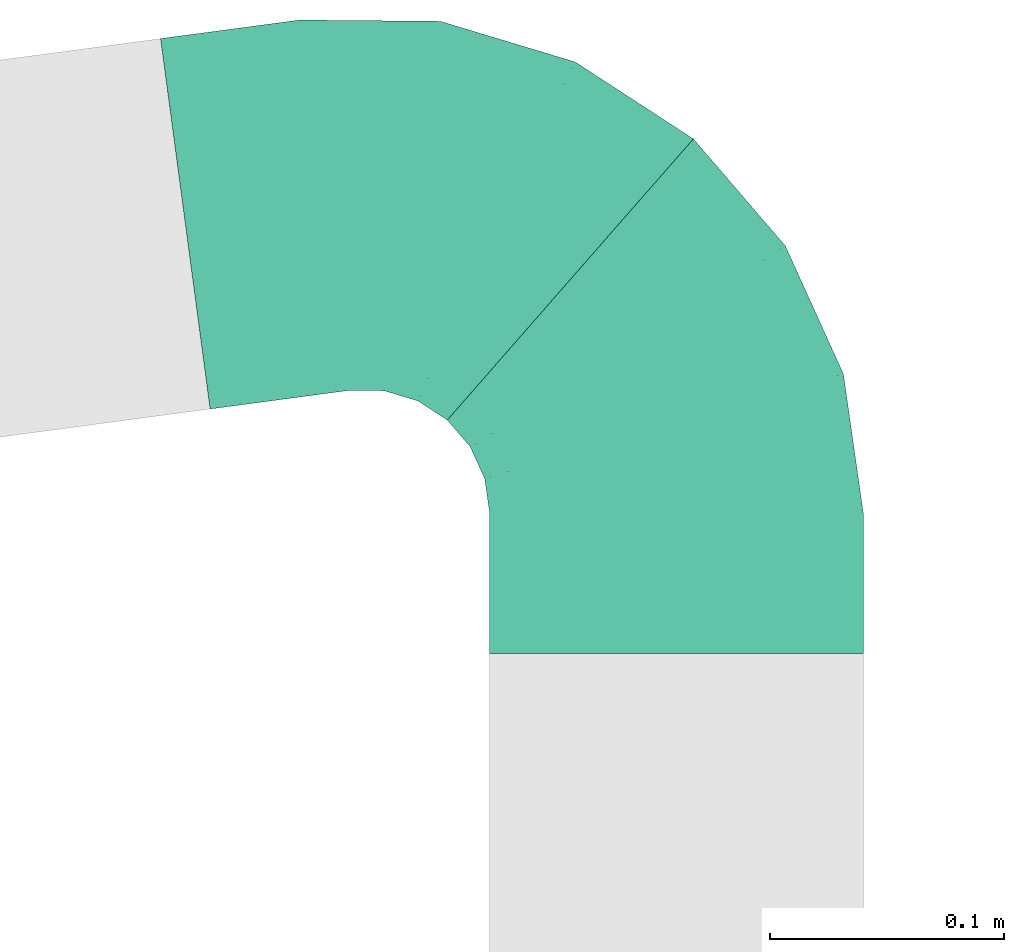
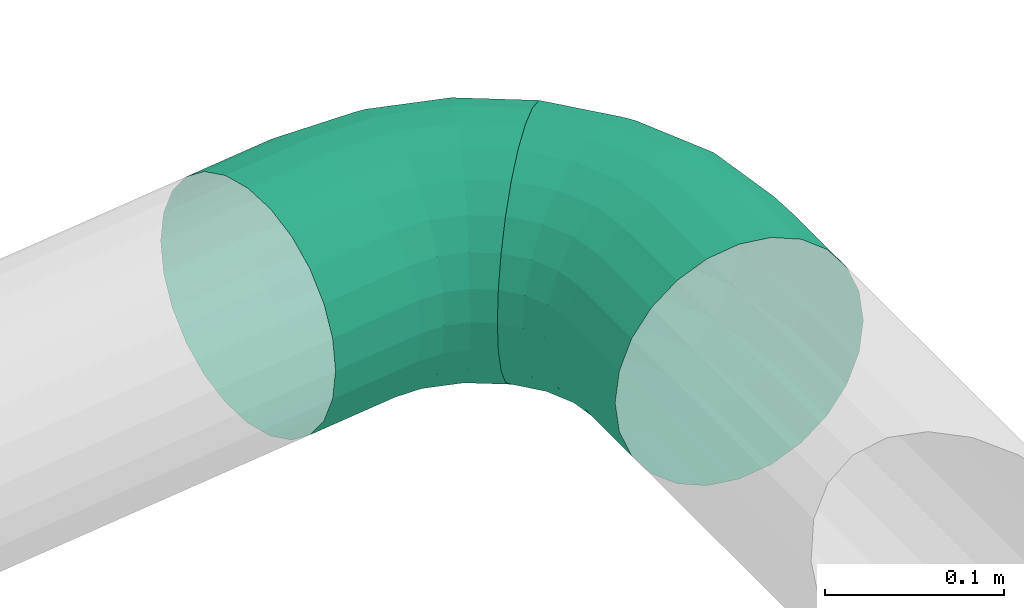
# One storey, part 322 of 374: 2 flow fittings.
"""IFC2X3 building model written with IfcOpenShell, lengths in metres."""

from ifc_helpers import new_model, si_unit, direction, origin, place, context, subcontext, project, spatial, open_shell, surface_model, source, transform, mapped, element, save


model = new_model("IFC2X3")

# Units and contexts
model_context = context("Model", 3, precision=1e-05, world=origin(), true_north=direction((-0.4480736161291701, 0.8939966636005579)))
body_context = subcontext(model_context, "Body", "Model", "MODEL_VIEW")
ifc_project = project(units=[si_unit("LENGTHUNIT", "METRE"), si_unit("AREAUNIT", "SQUARE_METRE"), si_unit("VOLUMEUNIT", "CUBIC_METRE"), si_unit("PLANEANGLEUNIT", "RADIAN"), si_unit("THERMODYNAMICTEMPERATUREUNIT", "KELVIN"), si_unit("MASSUNIT", "GRAM", prefix="KILO"), si_unit("TIMEUNIT", "SECOND")], contexts=[model_context])

# Site, building, storey
site_placement = place(None, origin())
site = spatial("IfcSite", under=ifc_project, at=site_placement, Name="Site 1", CompositionType="ELEMENT")
building_placement = place(site_placement, origin())
building = spatial("IfcBuilding", under=site, at=building_placement, Name="Undefined", CompositionType="ELEMENT")
storey_placement = place(building_placement, origin())
storey = spatial("IfcBuildingStorey", under=building, at=storey_placement, Name="Rez de chauss\x8ee", CompositionType="ELEMENT", Elevation=0.0)

# Flow fittings
shared_shape_1 = source(origin(), body_context, "Body", "SurfaceModel", [
    surface_model("IfcFaceBasedSurfaceModel", [(0.0, 0.020884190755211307, 0.0), (0.0, 0.0, 0.0), (0.06000000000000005, 8.8817842e-16, 0.0), (0.060000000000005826, 0.02088419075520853, 0.0), (0.0, -0.020172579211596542, -0.005405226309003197), (0.060000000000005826, -0.020172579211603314, -0.005405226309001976), (0.0, -0.03825881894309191, -0.015847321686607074), (0.060000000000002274, -0.03825881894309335, -0.015847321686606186), (0.0, -0.05302617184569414, -0.0306146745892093), (0.060000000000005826, -0.05302617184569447, -0.030614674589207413), (0.0, -0.06346826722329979, -0.04870091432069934), (0.060000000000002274, -0.06346826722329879, -0.04870091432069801), (0.0, -0.06887349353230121, -0.06887349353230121), (0.060000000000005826, -0.06887349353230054, -0.06887349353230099), (0.0, -0.06887349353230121, -0.08975768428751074), (0.060000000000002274, -0.06887349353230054, -0.08975768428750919), (0.0, -0.06346826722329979, -0.10993026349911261), (0.060000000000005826, -0.06346826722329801, -0.10993026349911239), (0.0, -0.05302617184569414, -0.12801650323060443), (0.060000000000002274, -0.05302617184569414, -0.12801650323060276), (0.0, -0.038258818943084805, -0.14278385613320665), (0.060000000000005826, -0.03825881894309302, -0.14278385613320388), (0.0, -0.020172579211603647, -0.15322595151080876), (0.060000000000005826, -0.020172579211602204, -0.15322595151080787), (0.0, 7.105427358e-15, -0.15863117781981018), (0.060000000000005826, 8.8817842e-16, -0.15863117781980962), (0.0, 0.020884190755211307, -0.15863117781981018), (0.060000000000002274, 0.020884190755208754, -0.1586311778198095), (0.0, 0.04105676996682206, -0.15322595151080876), (0.060000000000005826, 0.041056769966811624, -0.15322595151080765), (0.0, 0.05914300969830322, -0.1427838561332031), (0.060000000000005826, 0.05914300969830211, -0.14278385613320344), (0.0, 0.07391036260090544, -0.12801650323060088), (0.060000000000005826, 0.073910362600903, -0.12801650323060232), (0.0, 0.0843524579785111, -0.10993026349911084), (0.060000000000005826, 0.0843524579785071, -0.10993026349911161), (0.0, 0.08975768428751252, -0.08975768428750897), (0.060000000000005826, 0.08975768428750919, -0.08975768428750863), (0.0, 0.08975768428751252, -0.06887349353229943), (0.060000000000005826, 0.08975768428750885, -0.06887349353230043), (0.0, 0.0843524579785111, -0.048700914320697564), (0.060000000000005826, 0.08435245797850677, -0.04870091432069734), (0.0, 0.07391036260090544, -0.030614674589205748), (0.060000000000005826, 0.07391036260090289, -0.03061467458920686), (0.0, 0.05914300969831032, -0.015847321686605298), (0.060000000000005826, 0.05914300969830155, -0.015847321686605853), (0.0, 0.04105676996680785, -0.005405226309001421), (0.060000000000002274, 0.04105676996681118, -0.005405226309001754), (0.11895550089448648, -0.06051862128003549, -0.09085762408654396), (0.11971917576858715, -0.06041039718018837, -0.06998768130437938), (0.17318934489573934, -0.03612313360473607, -0.0940693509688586), (0.17465553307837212, -0.03569890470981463, -0.07324101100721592), (0.21835802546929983, 0.002359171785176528, -0.09913564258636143), (0.22040930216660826, 0.0032818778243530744, -0.0783729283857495), (0.11671651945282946, -0.05543069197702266, -0.11098843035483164), (0.16889069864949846, -0.031961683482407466, -0.11407818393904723), (0.21234398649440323, 0.005059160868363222, -0.11895207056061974), (0.11315481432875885, -0.0454933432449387, -0.12900821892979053), (0.1620525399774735, -0.023498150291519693, -0.13190394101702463), (0.20277703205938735, 0.011197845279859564, -0.1364717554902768), (0.10851310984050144, -0.03138378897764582, -0.14368897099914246), (0.1531408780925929, -0.011309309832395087, -0.14633182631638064), (0.19030913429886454, 0.02035688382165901, -0.15050075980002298), (0.10310773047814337, -0.014063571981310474, -0.15403021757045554), (0.14276302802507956, 0.0037741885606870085, -0.156378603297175), (0.1757899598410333, 0.03191210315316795, -0.16008303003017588), (0.09730704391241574, 0.005286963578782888, -0.15932721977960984), (0.1316262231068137, 0.020724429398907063, -0.16135960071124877), (0.16020896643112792, 0.04507603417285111, -0.16456555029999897), (0.091506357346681, 0.025349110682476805, -0.15921899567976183), (0.12048941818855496, 0.03838628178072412, -0.16093537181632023), (0.14462797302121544, 0.05895157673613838, -0.16364284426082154), (0.08610097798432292, 0.04475566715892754, -0.15371292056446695), (0.11011156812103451, 0.0555561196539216, -0.15513482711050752), (0.1301087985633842, 0.0725931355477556, -0.15737779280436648), (0.08145927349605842, 0.062184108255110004, -0.14318422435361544), (0.10119990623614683, 0.07106384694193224, -0.1443532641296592), (0.11764090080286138, 0.08507106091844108, -0.14619734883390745), (0.07789756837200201, 0.07644671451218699, -0.12835042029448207), (0.09436174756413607, 0.08385263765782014, -0.12932542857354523), (0.10807394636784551, 0.09553500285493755, -0.13086344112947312), (0.07565858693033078, 0.0865715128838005, -0.11022240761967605), (0.09006310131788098, 0.09305095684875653, -0.11107544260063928), (0.1020599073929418, 0.10327186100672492, -0.11242105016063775), (0.07489491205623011, 0.09186851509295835, -0.09003558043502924), (0.0885969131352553, 0.09803195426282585, -0.09084701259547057), (0.10000863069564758, 0.10775438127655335, -0.09212699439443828), (0.07565858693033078, 0.09197673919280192, -0.06916563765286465), (0.09006310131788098, 0.09845618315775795, -0.07001867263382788), (0.1020599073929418, 0.10867708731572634, -0.07136428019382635), (0.07789756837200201, 0.08688880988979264, -0.04903483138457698), (0.09436174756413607, 0.09429473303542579, -0.05000983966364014), (0.10807394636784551, 0.1059770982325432, -0.051547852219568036), (0.08145927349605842, 0.07695146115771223, -0.03101504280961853), (0.10119990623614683, 0.08583119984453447, -0.0321840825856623), (0.11764090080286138, 0.0998384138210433, -0.03402816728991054), (0.08610097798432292, 0.0628419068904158, -0.016334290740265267), (0.11011156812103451, 0.07364235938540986, -0.01775619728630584), (0.1301087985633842, 0.09067937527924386, -0.019999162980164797), (0.091506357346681, 0.04552168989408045, -0.005993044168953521), (0.12048941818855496, 0.058558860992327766, -0.007709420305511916), (0.14462797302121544, 0.07912415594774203, -0.010416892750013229), (0.09730704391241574, 0.02617115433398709, -0.0006960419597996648), (0.1316262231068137, 0.041608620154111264, -0.0027284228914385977), (0.16020896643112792, 0.06596022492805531, -0.005934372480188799), (0.10310773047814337, 0.006109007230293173, -0.0008042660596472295), (0.14276302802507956, 0.023946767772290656, -0.0031526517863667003), (0.1757899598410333, 0.052084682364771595, -0.006857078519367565), (0.10851310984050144, -0.013297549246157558, -0.006310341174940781), (0.1531408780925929, 0.006776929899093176, -0.00895319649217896), (0.19030913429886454, 0.038443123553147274, -0.013122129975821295), (0.11315481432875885, -0.030725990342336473, -0.01683903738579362), (0.1620525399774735, -0.008730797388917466, -0.01973475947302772), (0.20277703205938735, 0.02596519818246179, -0.024302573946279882), (0.11671651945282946, -0.04498859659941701, -0.03167284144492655), (0.16889069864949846, -0.021519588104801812, -0.03476259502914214), (0.21234398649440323, 0.015501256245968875, -0.03963648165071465), (0.11895550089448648, -0.05511339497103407, -0.04980085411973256), (0.17318934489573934, -0.030717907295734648, -0.0530125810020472), (0.21835802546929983, 0.007764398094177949, -0.058078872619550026)], [open_shell([[[0, 1, 2, 3]], [[1, 4, 5, 2]], [[4, 6, 7, 5]], [[6, 8, 9, 7]], [[8, 10, 11, 9]], [[10, 12, 13, 11]], [[12, 14, 15, 13]], [[14, 16, 17, 15]], [[16, 18, 19, 17]], [[18, 20, 21, 19]], [[20, 22, 23, 21]], [[22, 24, 25, 23]], [[24, 26, 27, 25]], [[26, 28, 29, 27]], [[28, 30, 31, 29]], [[30, 32, 33, 31]], [[32, 34, 35, 33]], [[34, 36, 37, 35]], [[36, 38, 39, 37]], [[38, 40, 41, 39]], [[40, 42, 43, 41]], [[42, 44, 45, 43]], [[44, 46, 47, 45]], [[46, 0, 3, 47]], [[13, 15, 48, 49]], [[49, 48, 50, 51]], [[51, 50, 52, 53]], [[15, 17, 54, 48]], [[48, 54, 55, 50]], [[50, 55, 56, 52]], [[17, 19, 57, 54]], [[54, 57, 58, 55]], [[55, 58, 59, 56]], [[19, 21, 60, 57]], [[57, 60, 61, 58]], [[58, 61, 62, 59]], [[21, 23, 63, 60]], [[60, 63, 64, 61]], [[61, 64, 65, 62]], [[23, 25, 66, 63]], [[63, 66, 67, 64]], [[64, 67, 68, 65]], [[25, 27, 69, 66]], [[66, 69, 70, 67]], [[67, 70, 71, 68]], [[27, 29, 72, 69]], [[69, 72, 73, 70]], [[70, 73, 74, 71]], [[29, 31, 75, 72]], [[72, 75, 76, 73]], [[73, 76, 77, 74]], [[31, 33, 78, 75]], [[75, 78, 79, 76]], [[76, 79, 80, 77]], [[33, 35, 81, 78]], [[78, 81, 82, 79]], [[79, 82, 83, 80]], [[35, 37, 84, 81]], [[81, 84, 85, 82]], [[82, 85, 86, 83]], [[37, 39, 87, 84]], [[84, 87, 88, 85]], [[85, 88, 89, 86]], [[39, 41, 90, 87]], [[87, 90, 91, 88]], [[88, 91, 92, 89]], [[41, 43, 93, 90]], [[90, 93, 94, 91]], [[91, 94, 95, 92]], [[43, 45, 96, 93]], [[93, 96, 97, 94]], [[94, 97, 98, 95]], [[45, 47, 99, 96]], [[96, 99, 100, 97]], [[97, 100, 101, 98]], [[47, 3, 102, 99]], [[99, 102, 103, 100]], [[100, 103, 104, 101]], [[3, 2, 105, 102]], [[102, 105, 106, 103]], [[103, 106, 107, 104]], [[2, 5, 108, 105]], [[105, 108, 109, 106]], [[106, 109, 110, 107]], [[5, 7, 111, 108]], [[108, 111, 112, 109]], [[109, 112, 113, 110]], [[7, 9, 114, 111]], [[111, 114, 115, 112]], [[112, 115, 116, 113]], [[9, 11, 117, 114]], [[114, 117, 118, 115]], [[115, 118, 119, 116]], [[11, 13, 49, 117]], [[117, 49, 51, 118]], [[118, 51, 53, 119]]])]),
])
flow_fitting_1_placement = place(storey_placement, origin())
element("IfcFlowFitting", 1, at=flow_fitting_1_placement, inside=storey, Name="PE-HD coude 90° à grand rayon", ObjectType="PE-HD coude 90° à grand rayon", context=body_context, shape_type="MappedRepresentation", body=[
    mapped(shared_shape_1, transform((31.039457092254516, 32.412654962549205, -0.7163137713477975), x_axis=(0.0, 1.0, 0.0), y_axis=(-0.9914448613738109, 0.0, 0.1305261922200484), z_axis=(0.1305261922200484, 0.0, 0.9914448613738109))),
])
shared_shape_2 = source(origin(), body_context, "Body", "SurfaceModel", [
    surface_model("IfcFaceBasedSurfaceModel", [(0.06032615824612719, 8.8817842e-16, -7.105427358e-15), (0.059940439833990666, 0.02088062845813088, -7.105427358e-15), (0.0003857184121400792, 0.02088062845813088, -7.105427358e-15), (0.0, 0.0, 0.0), (-0.05678417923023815, 0.02303682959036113, -0.016544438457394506), (-0.05791044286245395, 0.002184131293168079, -0.01675874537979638), (-0.10699060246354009, 0.027176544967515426, -0.04830829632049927), (-0.108767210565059, 0.0063774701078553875, -0.04893405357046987), (0.0588095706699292, 0.041035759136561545, -0.005351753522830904), (0.0015165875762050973, 0.04103575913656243, -0.005351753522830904), (-0.05348214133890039, 0.04311007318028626, -0.02126787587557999), (-0.10178185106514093, 0.047092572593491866, -0.051825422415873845), (0.057010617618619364, 0.05909185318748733, -0.015690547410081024), (0.0033155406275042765, 0.05909185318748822, -0.01569054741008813), (-0.04822935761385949, 0.06103590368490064, -0.03060716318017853), (-0.09349592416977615, 0.06476830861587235, -0.059245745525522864), (0.05466617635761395, 0.07381841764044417, -0.030311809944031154), (0.005659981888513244, 0.07381841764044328, -0.030311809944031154), (-0.041383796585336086, 0.07559270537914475, -0.043925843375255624), (-0.08269749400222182, 0.0789991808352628, -0.07006358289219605), (0.05193601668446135, 0.08421186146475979, -0.04821912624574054), (0.008390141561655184, 0.08421186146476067, -0.048219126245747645), (-0.03341197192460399, 0.08578845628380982, -0.060316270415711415), (-0.07012245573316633, 0.08881537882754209, -0.083541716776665), (0.04900619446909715, 0.08956388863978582, -0.06819214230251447), (0.011319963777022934, 0.0895638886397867, -0.06819214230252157), (-0.024857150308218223, 0.0909283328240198, -0.07866146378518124), (-0.05662777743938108, 0.09354794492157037, -0.09876163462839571), (0.0460763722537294, 0.08950976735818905, -0.08886973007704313), (0.014249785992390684, 0.08950976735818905, -0.08886973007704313), (-0.016302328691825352, 0.09066206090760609, -0.0977112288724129), (-0.04313309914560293, 0.09287436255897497, -0.11468612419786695), (0.04334621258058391, 0.08405318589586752, -0.10884274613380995), (0.016979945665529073, 0.08405318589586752, -0.10884274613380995), (-0.00833050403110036, 0.08500778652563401, -0.11616735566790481), (-0.03055806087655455, 0.08684053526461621, -0.13022995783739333), (0.04100177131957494, 0.07356600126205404, -0.12675006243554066), (0.019324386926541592, 0.07356600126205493, -0.12675006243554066), (-0.001484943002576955, 0.07435083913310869, -0.1327720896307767), (-0.019759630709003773, 0.07585765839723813, -0.1443338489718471), (0.03920281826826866, 0.058762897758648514, -0.14137132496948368), (0.02112333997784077, 0.05876289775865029, -0.14137132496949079), (0.0037678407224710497, 0.059417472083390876, -0.14639384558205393), (-0.011473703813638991, 0.06067419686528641, -0.156036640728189), (0.03807194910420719, 0.04065268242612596, -0.151710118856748), (0.022254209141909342, 0.04065268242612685, -0.15171011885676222), (0.007069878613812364, 0.041225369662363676, -0.15610432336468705), (-0.0062649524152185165, 0.04232487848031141, -0.16454080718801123), (0.03768623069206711, 0.020469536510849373, -0.15706187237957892), (0.02263992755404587, 0.020469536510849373, -0.15706187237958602), (0.008196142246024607, 0.02101429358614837, -0.16124176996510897), (-0.0044883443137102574, 0.022060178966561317, -0.16926680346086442), (0.03807194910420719, -0.0004110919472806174, -0.15706187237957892), (0.022254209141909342, -0.0004110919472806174, -0.15706187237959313), (0.007069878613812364, 0.00016159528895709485, -0.16145607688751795), (-0.0062649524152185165, 0.0012611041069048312, -0.16989256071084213), (0.03920281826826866, -0.02056622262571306, -0.15171011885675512), (0.02112333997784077, -0.020566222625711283, -0.15171011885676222), (0.0037678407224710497, -0.019911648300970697, -0.15673263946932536), (-0.011473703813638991, -0.01865492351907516, -0.16637543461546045), (0.04100177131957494, -0.03862231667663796, -0.1413713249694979), (0.019324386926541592, -0.03862231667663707, -0.1413713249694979), (-0.001484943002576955, -0.0378374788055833, -0.14739335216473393), (-0.019759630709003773, -0.03633065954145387, -0.15895511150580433), (0.04334621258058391, -0.053348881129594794, -0.12675006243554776), (0.016979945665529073, -0.053348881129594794, -0.12675006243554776), (-0.00833050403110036, -0.052394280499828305, -0.13407467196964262), (-0.03055806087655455, -0.0505615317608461, -0.14813727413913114), (0.0460763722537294, -0.06374232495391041, -0.10884274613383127), (0.014249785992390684, -0.06374232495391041, -0.10884274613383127), (-0.016302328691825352, -0.06259003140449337, -0.11768424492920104), (-0.04313309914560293, -0.0603777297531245, -0.13465914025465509), (0.04900619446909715, -0.06909435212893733, -0.08886973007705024), (0.011319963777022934, -0.06909435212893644, -0.08886973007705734), (-0.024857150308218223, -0.06772990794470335, -0.099339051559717), (-0.05662777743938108, -0.06511029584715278, -0.11943922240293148), (0.05193601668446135, -0.06904023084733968, -0.06819214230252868), (0.008390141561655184, -0.06904023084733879, -0.06819214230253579), (-0.03341197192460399, -0.06746363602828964, -0.08028928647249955), (-0.07012245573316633, -0.06443671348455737, -0.10351473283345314), (0.05466617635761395, -0.06358364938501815, -0.04821912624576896), (0.005659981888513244, -0.06358364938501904, -0.04821912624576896), (-0.041383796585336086, -0.06180936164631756, -0.06183315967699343), (-0.08269749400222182, -0.05840288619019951, -0.08797089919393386), (0.057010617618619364, -0.053096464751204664, -0.03031180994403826), (0.0033155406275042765, -0.053096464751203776, -0.030311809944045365), (-0.04822935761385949, -0.051152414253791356, -0.04522842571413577), (-0.09349592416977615, -0.047420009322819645, -0.0738670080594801), (0.0588095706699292, -0.03829336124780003, -0.01569054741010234), (0.0015165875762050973, -0.03829336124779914, -0.01569054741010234), (-0.05348214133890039, -0.036219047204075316, -0.031606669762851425), (-0.10178185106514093, -0.03223654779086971, -0.06216421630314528), (0.059940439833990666, -0.02018314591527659, -0.00535175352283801), (0.0003857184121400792, -0.02018314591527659, -0.00535175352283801), (-0.05678417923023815, -0.01802694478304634, -0.02189619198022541), (-0.10699060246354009, -0.013887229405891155, -0.05366004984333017), (-0.15249700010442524, 0.03223022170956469, -0.08708494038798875), (-0.15427360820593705, 0.011431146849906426, -0.08771069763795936), (-0.14728824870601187, 0.05214624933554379, -0.09060206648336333), (-0.1390023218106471, 0.06982198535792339, -0.09802238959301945), (-0.1282038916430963, 0.08405285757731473, -0.10884022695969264), (-0.11562885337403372, 0.0938690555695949, -0.1223183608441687), (-0.10213417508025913, 0.0986016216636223, -0.1375382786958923), (-0.08863949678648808, 0.097928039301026, -0.15346276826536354), (-0.07606445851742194, 0.09189421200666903, -0.16900660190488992), (-0.06526602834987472, 0.08091133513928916, -0.18311049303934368), (-0.05698010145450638, 0.06572787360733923, -0.1948132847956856), (-0.051771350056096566, 0.04737855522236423, -0.20331745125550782), (-0.049994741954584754, 0.027113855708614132, -0.20804344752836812), (-0.051771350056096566, 0.006314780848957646, -0.20866920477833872), (-0.05698010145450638, -0.013601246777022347, -0.20515207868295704), (-0.06526602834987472, -0.03127698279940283, -0.19773175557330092), (-0.07606445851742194, -0.045507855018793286, -0.18691391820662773), (-0.08863949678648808, -0.05532405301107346, -0.17343578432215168), (-0.10213417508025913, -0.06005661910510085, -0.15821586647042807), (-0.11562885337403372, -0.05938303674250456, -0.14229137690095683), (-0.1282038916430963, -0.05334920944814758, -0.12674754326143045), (-0.1390023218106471, -0.042366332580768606, -0.11264365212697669), (-0.14728824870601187, -0.02718287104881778, -0.10094086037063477), (-0.15249700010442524, -0.008833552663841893, -0.09243669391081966)], [open_shell([[[0, 1, 2, 3]], [[3, 2, 4, 5]], [[5, 4, 6, 7]], [[1, 8, 9, 2]], [[2, 9, 10, 4]], [[4, 10, 11, 6]], [[8, 12, 13, 9]], [[9, 13, 14, 10]], [[10, 14, 15, 11]], [[12, 16, 17, 13]], [[13, 17, 18, 14]], [[14, 18, 19, 15]], [[16, 20, 21, 17]], [[17, 21, 22, 18]], [[18, 22, 23, 19]], [[20, 24, 25, 21]], [[21, 25, 26, 22]], [[22, 26, 27, 23]], [[24, 28, 29, 25]], [[25, 29, 30, 26]], [[26, 30, 31, 27]], [[28, 32, 33, 29]], [[29, 33, 34, 30]], [[30, 34, 35, 31]], [[32, 36, 37, 33]], [[33, 37, 38, 34]], [[34, 38, 39, 35]], [[36, 40, 41, 37]], [[37, 41, 42, 38]], [[38, 42, 43, 39]], [[40, 44, 45, 41]], [[41, 45, 46, 42]], [[42, 46, 47, 43]], [[44, 48, 49, 45]], [[45, 49, 50, 46]], [[46, 50, 51, 47]], [[48, 52, 53, 49]], [[49, 53, 54, 50]], [[50, 54, 55, 51]], [[52, 56, 57, 53]], [[53, 57, 58, 54]], [[54, 58, 59, 55]], [[56, 60, 61, 57]], [[57, 61, 62, 58]], [[58, 62, 63, 59]], [[60, 64, 65, 61]], [[61, 65, 66, 62]], [[62, 66, 67, 63]], [[64, 68, 69, 65]], [[65, 69, 70, 66]], [[66, 70, 71, 67]], [[68, 72, 73, 69]], [[69, 73, 74, 70]], [[70, 74, 75, 71]], [[72, 76, 77, 73]], [[73, 77, 78, 74]], [[74, 78, 79, 75]], [[76, 80, 81, 77]], [[77, 81, 82, 78]], [[78, 82, 83, 79]], [[80, 84, 85, 81]], [[81, 85, 86, 82]], [[82, 86, 87, 83]], [[84, 88, 89, 85]], [[85, 89, 90, 86]], [[86, 90, 91, 87]], [[88, 92, 93, 89]], [[89, 93, 94, 90]], [[90, 94, 95, 91]], [[92, 0, 3, 93]], [[93, 3, 5, 94]], [[94, 5, 7, 95]], [[7, 6, 96, 97]], [[6, 11, 98, 96]], [[11, 15, 99, 98]], [[15, 19, 100, 99]], [[19, 23, 101, 100]], [[23, 27, 102, 101]], [[27, 31, 103, 102]], [[31, 35, 104, 103]], [[35, 39, 105, 104]], [[39, 43, 106, 105]], [[43, 47, 107, 106]], [[47, 51, 108, 107]], [[51, 55, 109, 108]], [[55, 59, 110, 109]], [[59, 63, 111, 110]], [[63, 67, 112, 111]], [[67, 71, 113, 112]], [[71, 75, 114, 113]], [[75, 79, 115, 114]], [[79, 83, 116, 115]], [[83, 87, 117, 116]], [[87, 91, 118, 117]], [[91, 95, 119, 118]], [[95, 7, 97, 119]]])]),
])
flow_fitting_2_placement = place(storey_placement, origin())
element("IfcFlowFitting", 2, at=flow_fitting_2_placement, inside=storey, Name="PE-HD coude 90° à grand rayon", ObjectType="PE-HD coude 90° à grand rayon", context=body_context, shape_type="MappedRepresentation", body=[
    mapped(shared_shape_2, transform((30.975412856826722, 32.665971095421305, -0.793587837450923), x_axis=(0.8381225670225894, -0.5454819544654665, 0.0), y_axis=(-0.07049531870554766, -0.10831470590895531, -0.9916140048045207), z_axis=(0.5409075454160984, 0.8310940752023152, -0.12923492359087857))),
])

save(model, "model.ifc")
